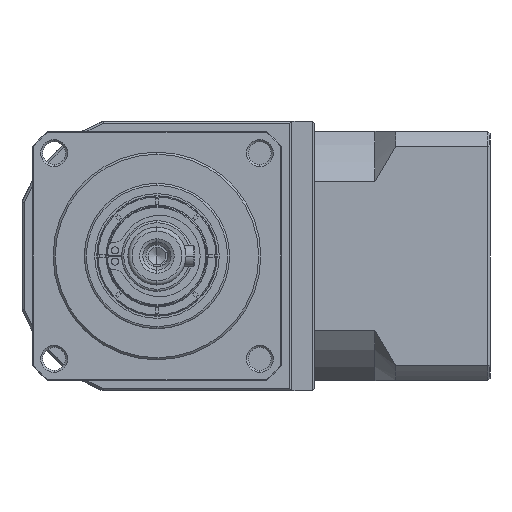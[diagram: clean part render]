
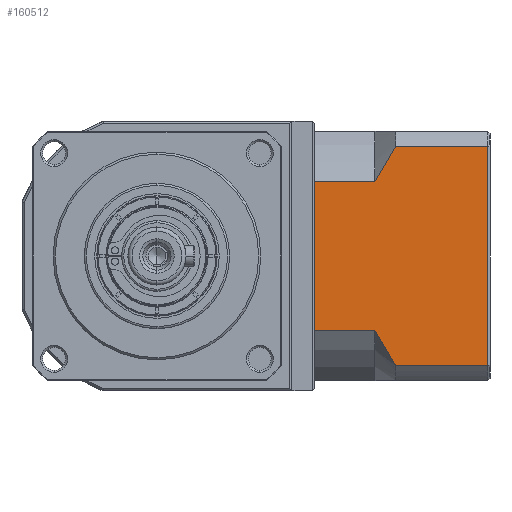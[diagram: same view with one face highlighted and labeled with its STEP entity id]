
A CAD part, left-side view. The second image highlights one B-rep face of the part: STEP entity #160512.
In plain terms, the highlighted planar face has unit normal (-1, 0, 0).
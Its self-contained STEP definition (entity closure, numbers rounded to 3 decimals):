
#339 = ORIENTED_EDGE ( 'NONE', *, *, #62521, .F. ) ;
#501 = B_SPLINE_CURVE_WITH_KNOTS ( 'NONE', 3,
 ( #27994, #151475, #3020, #114804, #40507, #127270 ),
 .UNSPECIFIED., .F., .F.,
 ( 4, 2, 4 ),
 ( 0.1, 0.104, 0.109 ),
 .UNSPECIFIED. ) ;
#2963 = DIRECTION ( 'NONE',  ( 0., 1., 0. ) ) ;
#3020 = CARTESIAN_POINT ( 'NONE',  ( 13.597, -74.484, -143.338 ) ) ;
#3245 = DIRECTION ( 'NONE',  ( 0., 1., 0. ) ) ;
#12360 = ORIENTED_EDGE ( 'NONE', *, *, #60410, .T. ) ;
#12989 = LINE ( 'NONE', #139412, #108163 ) ;
#14510 = CARTESIAN_POINT ( 'NONE',  ( 13.597, -100.633, -152.428 ) ) ;
#14961 = DIRECTION ( 'NONE',  ( 0., 0., -1. ) ) ;
#16568 = DIRECTION ( 'NONE',  ( 0., 0., 1. ) ) ;
#17015 = LINE ( 'NONE', #23655, #145082 ) ;
#18949 = LINE ( 'NONE', #90980, #114068 ) ;
#20056 = FACE_OUTER_BOUND ( 'NONE', #26073, .T. ) ;
#23484 = ORIENTED_EDGE ( 'NONE', *, *, #125947, .T. ) ;
#23655 = CARTESIAN_POINT ( 'NONE',  ( 13.597, -72.933, -104.401 ) ) ;
#24094 = EDGE_CURVE ( 'NONE', #74513, #76693, #12989, .T. ) ;
#26073 = EDGE_LOOP ( 'NONE', ( #31191, #23484, #37138, #87748, #99302, #147521, #339, #12360 ) ) ;
#27026 = DIRECTION ( 'NONE',  ( 0., 1., 0. ) ) ;
#27994 = CARTESIAN_POINT ( 'NONE',  ( 13.597, -72.933, -140.456 ) ) ;
#29038 = CARTESIAN_POINT ( 'NONE',  ( 13.597, -58.433, -152.428 ) ) ;
#31191 = ORIENTED_EDGE ( 'NONE', *, *, #136431, .F. ) ;
#36082 = DIRECTION ( 'NONE',  ( 0., -1., 0. ) ) ;
#37138 = ORIENTED_EDGE ( 'NONE', *, *, #24094, .F. ) ;
#40507 = CARTESIAN_POINT ( 'NONE',  ( 13.597, -77.032, -147.523 ) ) ;
#41233 = B_SPLINE_CURVE_WITH_KNOTS ( 'NONE', 3,
 ( #86026, #159985, #123390, #49107, #135851, #61607 ),
 .UNSPECIFIED., .F., .F.,
 ( 4, 2, 4 ),
 ( 0.052, 0.057, 0.062 ),
 .UNSPECIFIED. ) ;
#49107 = CARTESIAN_POINT ( 'NONE',  ( 13.597, -74.484, -101.517 ) ) ;
#52399 = CARTESIAN_POINT ( 'NONE',  ( 13.597, -72.933, -148.886 ) ) ;
#53770 = VERTEX_POINT ( 'NONE', #156804 ) ;
#57575 = EDGE_CURVE ( 'NONE', #71772, #89749, #159820, .T. ) ;
#60410 = EDGE_CURVE ( 'NONE', #78701, #69399, #501, .T. ) ;
#61607 = CARTESIAN_POINT ( 'NONE',  ( 13.597, -72.933, -104.401 ) ) ;
#62521 = EDGE_CURVE ( 'NONE', #78701, #89749, #111975, .T. ) ;
#65063 = VECTOR ( 'NONE', #14961, 1000. ) ;
#67100 = EDGE_CURVE ( 'NONE', #71772, #84348, #17015, .T. ) ;
#69399 = VERTEX_POINT ( 'NONE', #117465 ) ;
#71772 = VERTEX_POINT ( 'NONE', #124346 ) ;
#73319 = AXIS2_PLACEMENT_3D ( 'NONE', #14510, #101351, #27026 ) ;
#74513 = VERTEX_POINT ( 'NONE', #81640 ) ;
#76693 = VERTEX_POINT ( 'NONE', #151613 ) ;
#78701 = VERTEX_POINT ( 'NONE', #109091 ) ;
#81640 = CARTESIAN_POINT ( 'NONE',  ( 13.597, -77.933, -95.971 ) ) ;
#84348 = VERTEX_POINT ( 'NONE', #96135 ) ;
#86026 = CARTESIAN_POINT ( 'NONE',  ( 13.597, -77.933, -95.971 ) ) ;
#87748 = ORIENTED_EDGE ( 'NONE', *, *, #94126, .T. ) ;
#88375 = PLANE ( 'NONE',  #73319 ) ;
#89594 = CARTESIAN_POINT ( 'NONE',  ( 13.597, -72.933, -140.456 ) ) ;
#89749 = VERTEX_POINT ( 'NONE', #90351 ) ;
#90351 = CARTESIAN_POINT ( 'NONE',  ( 13.597, -58.433, -140.456 ) ) ;
#90980 = CARTESIAN_POINT ( 'NONE',  ( 13.597, -100.133, -152.428 ) ) ;
#94126 = EDGE_CURVE ( 'NONE', #74513, #84348, #41233, .T. ) ;
#96135 = CARTESIAN_POINT ( 'NONE',  ( 13.597, -72.933, -104.401 ) ) ;
#99302 = ORIENTED_EDGE ( 'NONE', *, *, #67100, .F. ) ;
#101351 = DIRECTION ( 'NONE',  ( 1., 0., 0. ) ) ;
#106681 = VECTOR ( 'NONE', #2963, 1000. ) ;
#108163 = VECTOR ( 'NONE', #151722, 1000. ) ;
#109091 = CARTESIAN_POINT ( 'NONE',  ( 13.597, -72.933, -140.456 ) ) ;
#111975 = LINE ( 'NONE', #89594, #141001 ) ;
#114068 = VECTOR ( 'NONE', #16568, 1000. ) ;
#114804 = CARTESIAN_POINT ( 'NONE',  ( 13.597, -76.158, -146.143 ) ) ;
#117465 = CARTESIAN_POINT ( 'NONE',  ( 13.597, -77.933, -148.886 ) ) ;
#123390 = CARTESIAN_POINT ( 'NONE',  ( 13.597, -76.16, -98.709 ) ) ;
#124346 = CARTESIAN_POINT ( 'NONE',  ( 13.597, -58.433, -104.401 ) ) ;
#125947 = EDGE_CURVE ( 'NONE', #53770, #76693, #18949, .T. ) ;
#127270 = CARTESIAN_POINT ( 'NONE',  ( 13.597, -77.933, -148.886 ) ) ;
#135851 = CARTESIAN_POINT ( 'NONE',  ( 13.597, -73.681, -102.949 ) ) ;
#136431 = EDGE_CURVE ( 'NONE', #53770, #69399, #139579, .T. ) ;
#139412 = CARTESIAN_POINT ( 'NONE',  ( 13.597, -72.933, -95.971 ) ) ;
#139579 = LINE ( 'NONE', #52399, #106681 ) ;
#141001 = VECTOR ( 'NONE', #3245, 1000. ) ;
#145082 = VECTOR ( 'NONE', #36082, 1000. ) ;
#147521 = ORIENTED_EDGE ( 'NONE', *, *, #57575, .T. ) ;
#151475 = CARTESIAN_POINT ( 'NONE',  ( 13.597, -73.683, -141.913 ) ) ;
#151613 = CARTESIAN_POINT ( 'NONE',  ( 13.597, -100.133, -95.971 ) ) ;
#151722 = DIRECTION ( 'NONE',  ( 0., -1., 0. ) ) ;
#156804 = CARTESIAN_POINT ( 'NONE',  ( 13.597, -100.133, -148.886 ) ) ;
#159820 = LINE ( 'NONE', #29038, #65063 ) ;
#159985 = CARTESIAN_POINT ( 'NONE',  ( 13.597, -77.033, -97.331 ) ) ;
#160512 = ADVANCED_FACE ( 'NONE', ( #20056 ), #88375, .F. ) ;
